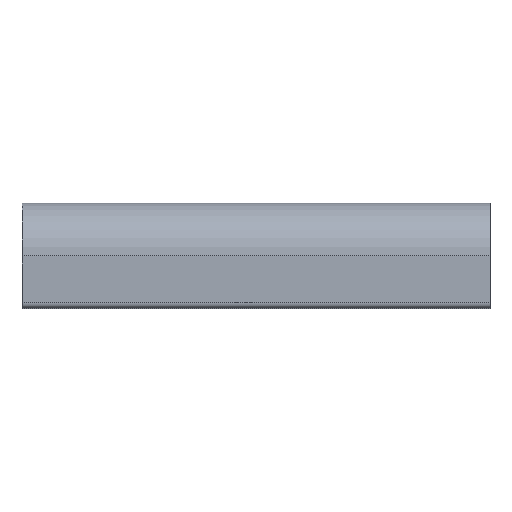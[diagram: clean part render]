
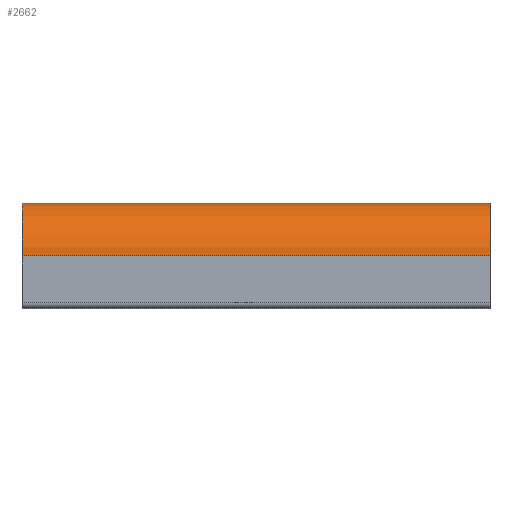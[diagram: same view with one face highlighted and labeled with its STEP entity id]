
A CAD part, top view. The second image highlights one B-rep face of the part: STEP entity #2662.
In plain terms, the highlighted cylindrical face has radius 22.5 mm (diameter 45 mm), a partial arc.
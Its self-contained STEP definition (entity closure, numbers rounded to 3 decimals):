
#40 = CYLINDRICAL_SURFACE ( 'NONE', #2894, 22.5 ) ;
#54 = CARTESIAN_POINT ( 'NONE',  ( 0., 0., -22.5 ) ) ;
#167 = CIRCLE ( 'NONE', #531, 22.5 ) ;
#175 = AXIS2_PLACEMENT_3D ( 'NONE', #1392, #2666, #1932 ) ;
#203 = EDGE_CURVE ( 'NONE', #735, #502, #1383, .T. ) ;
#220 = ORIENTED_EDGE ( 'NONE', *, *, #203, .T. ) ;
#440 = CARTESIAN_POINT ( 'NONE',  ( 200., 0., -22.5 ) ) ;
#502 = VERTEX_POINT ( 'NONE', #54 ) ;
#531 = AXIS2_PLACEMENT_3D ( 'NONE', #1151, #2123, #2323 ) ;
#569 = EDGE_CURVE ( 'NONE', #598, #3159, #2480, .T. ) ;
#598 = VERTEX_POINT ( 'NONE', #3022 ) ;
#735 = VERTEX_POINT ( 'NONE', #440 ) ;
#736 = DIRECTION ( 'NONE',  ( -1., 0., 0. ) ) ;
#774 = DIRECTION ( 'NONE',  ( 0., 0., 1. ) ) ;
#1038 = CARTESIAN_POINT ( 'NONE',  ( 200., 0., 0. ) ) ;
#1067 = CIRCLE ( 'NONE', #175, 22.5 ) ;
#1151 = CARTESIAN_POINT ( 'NONE',  ( 0., 0., 0. ) ) ;
#1239 = EDGE_CURVE ( 'NONE', #502, #3159, #167, .T. ) ;
#1259 = FACE_OUTER_BOUND ( 'NONE', #2385, .T. ) ;
#1367 = VECTOR ( 'NONE', #736, 1000. ) ;
#1383 = LINE ( 'NONE', #2608, #2101 ) ;
#1392 = CARTESIAN_POINT ( 'NONE',  ( 200., 0., 0. ) ) ;
#1542 = CARTESIAN_POINT ( 'NONE',  ( 200., 0., 22.5 ) ) ;
#1932 = DIRECTION ( 'NONE',  ( 0., 0., -1. ) ) ;
#2035 = EDGE_CURVE ( 'NONE', #735, #598, #1067, .T. ) ;
#2101 = VECTOR ( 'NONE', #2354, 1000. ) ;
#2123 = DIRECTION ( 'NONE',  ( 1., 0., 0. ) ) ;
#2192 = ORIENTED_EDGE ( 'NONE', *, *, #1239, .T. ) ;
#2252 = DIRECTION ( 'NONE',  ( -1., 0., 0. ) ) ;
#2323 = DIRECTION ( 'NONE',  ( 0., 0., -1. ) ) ;
#2354 = DIRECTION ( 'NONE',  ( -1., 0., 0. ) ) ;
#2385 = EDGE_LOOP ( 'NONE', ( #2192, #3172, #3093, #220 ) ) ;
#2428 = CARTESIAN_POINT ( 'NONE',  ( 0., 0., 22.5 ) ) ;
#2480 = LINE ( 'NONE', #1542, #1367 ) ;
#2608 = CARTESIAN_POINT ( 'NONE',  ( 200., 0., -22.5 ) ) ;
#2662 = ADVANCED_FACE ( 'NONE', ( #1259 ), #40, .T. ) ;
#2666 = DIRECTION ( 'NONE',  ( 1., 0., 0. ) ) ;
#2894 = AXIS2_PLACEMENT_3D ( 'NONE', #1038, #2252, #774 ) ;
#3022 = CARTESIAN_POINT ( 'NONE',  ( 200., 0., 22.5 ) ) ;
#3093 = ORIENTED_EDGE ( 'NONE', *, *, #2035, .F. ) ;
#3159 = VERTEX_POINT ( 'NONE', #2428 ) ;
#3172 = ORIENTED_EDGE ( 'NONE', *, *, #569, .F. ) ;
